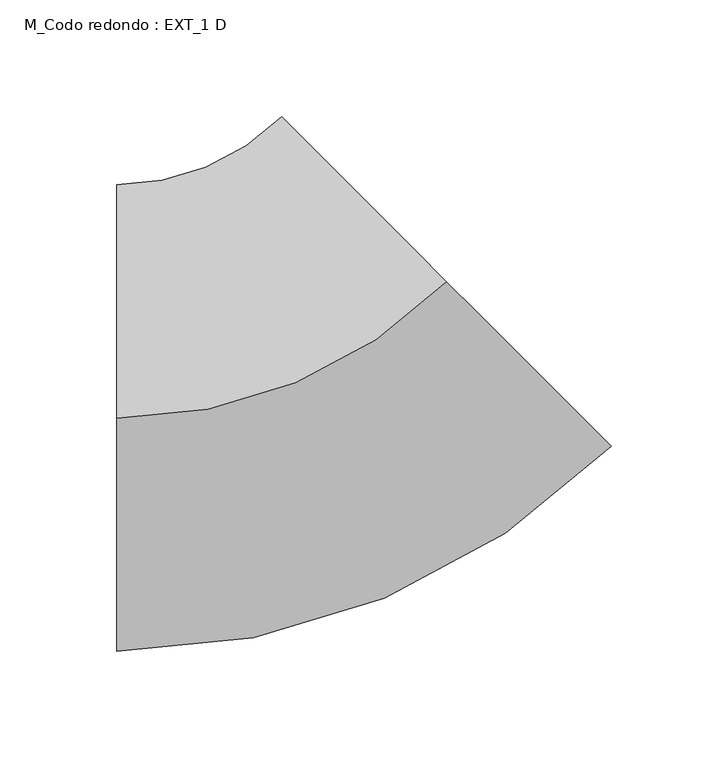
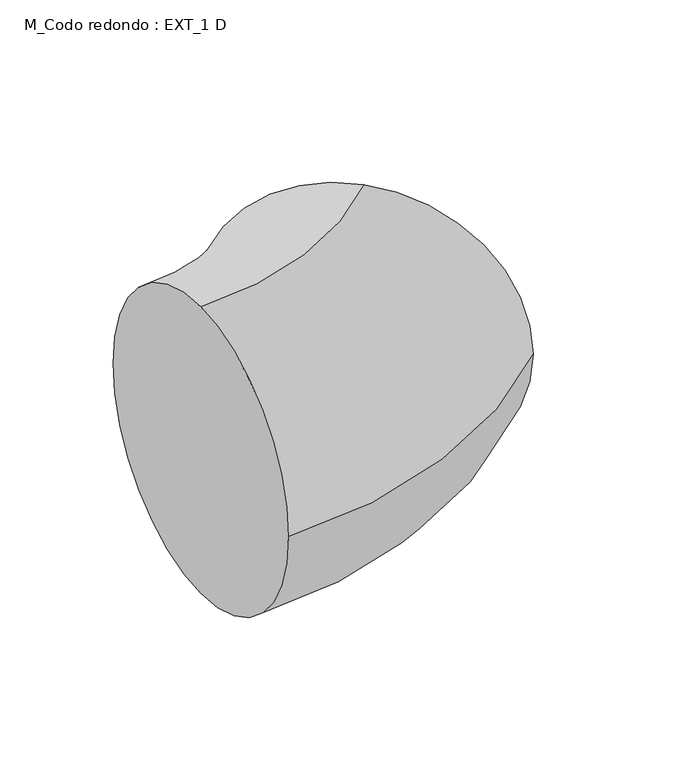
"""IFC4 building model written with IfcOpenShell, lengths in millimetres: duct fitting geometry, M_Codo redondo : EXT_1 D."""

from ifc_helpers import new_model, si_unit, point, frame, origin, place, context, project, spatial, circle_curve, ellipse_curve, trimmed, source, transform, mapped, element, save
from ifc_brep_helpers import plane_surface, revolved_surface, advanced_brep


def m_codo_redondo_ext_1_d_d62552e0(model_context):
    return source(origin(), model_context, "Body", "AdvancedBrep", [
        advanced_brep(
        [(-82.8427125, 0.0, 100.0), (-82.8427125, 100.0, 0.0), (-82.8427125, 0.0, -100.0), (-82.8427125, -100.0, 0.0), (58.5786438, 58.5786438, 100.0), (129.2893219, -12.1320344, 0.0), (58.5786438, 58.5786438, -100.0), (-12.1320344, 129.2893219, 0.0)],
        [
            (0, 1, circle_curve(frame((-82.8427125, 0.0, 0.0), z_axis=(-1.0, 0.0, 0.0), x_axis=(0.0, 1.0, 0.0)), 100.0)),
            (1, 2, circle_curve(frame((-82.8427125, 0.0, 0.0), z_axis=(-1.0, 0.0, 0.0), x_axis=(0.0, 1.0, 0.0)), 100.0)),
            (2, 3, circle_curve(frame((-82.8427125, 0.0, 0.0), z_axis=(-1.0, 0.0, 0.0), x_axis=(0.0, 1.0, 0.0)), 100.0)),
            (3, 0, circle_curve(frame((-82.8427125, 0.0, 0.0), z_axis=(-1.0, 0.0, 0.0), x_axis=(0.0, 1.0, 0.0)), 100.0)),
            (4, 5, circle_curve(frame((58.5786438, 58.5786438, 0.0), z_axis=(0.7071067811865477, 0.7071067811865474, 0.0), x_axis=(-0.7071067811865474, 0.7071067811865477, 0.0)), 100.0)),
            (5, 6, circle_curve(frame((58.5786438, 58.5786438, 0.0), z_axis=(0.7071067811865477, 0.7071067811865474, 0.0), x_axis=(-0.7071067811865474, 0.7071067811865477, 0.0)), 100.0)),
            (6, 7, circle_curve(frame((58.5786438, 58.5786438, 0.0), z_axis=(0.7071067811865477, 0.7071067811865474, 0.0), x_axis=(-0.7071067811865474, 0.7071067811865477, 0.0)), 100.0)),
            (7, 4, circle_curve(frame((58.5786438, 58.5786438, 0.0), z_axis=(0.7071067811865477, 0.7071067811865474, 0.0), x_axis=(-0.7071067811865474, 0.7071067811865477, 0.0)), 100.0)),
            (7, 1, circle_curve(frame((-82.8427125, 200.0, 0.0), z_axis=(0.0, 0.0, -1.0), x_axis=(0.0, -1.0, 0.0)), 100.0)),
            (0, 4, circle_curve(frame((-82.8427125, 200.0, 100.0), z_axis=(0.0, 0.0, 1.0), x_axis=(0.0, -1.0, 0.0)), 200.0)),
            (6, 2, circle_curve(frame((-82.8427125, 200.0, -100.0), z_axis=(0.0, 0.0, -1.0), x_axis=(0.0, -1.0, 0.0)), 200.0)),
            (5, 3, circle_curve(frame((-82.8427125, 200.0, 0.0), z_axis=(0.0, 0.0, -1.0), x_axis=(0.0, -1.0, 0.0)), 300.0)),
        ],
        [
            plane_surface(frame((-82.8427125, 0.0, 0.0), z_axis=(-1.0, 0.0, 0.0), x_axis=(0.0, 0.0, 1.0))),
            plane_surface(frame((58.5786438, 58.5786438, 0.0), z_axis=(0.7071067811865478, 0.7071067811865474, 0.0), x_axis=(0.0, 0.0, 1.0))),
            revolved_surface(trimmed(ellipse_curve(frame((-82.8427125, 0.0, 0.0), z_axis=(-1.0, 0.0, 0.0), x_axis=(0.0, 1.0, 0.0)), 100.0, 100.0), [point((-82.8427125, 0.0, 100.0))], [point((-82.8427125, 100.0, 0.0))], True, "CARTESIAN"), (-82.8427125, 200.0, 0.0), (0.0, 0.0, 1.0)),
            revolved_surface(trimmed(ellipse_curve(frame((-82.8427125, 0.0, 0.0), z_axis=(-1.0, 0.0, 0.0), x_axis=(0.0, 1.0, 0.0)), 100.0, 100.0), [point((-82.8427125, 100.0, 0.0))], [point((-82.8427125, 0.0, -100.0))], True, "CARTESIAN"), (-82.8427125, 200.0, 0.0), (0.0, 0.0, 1.0)),
            revolved_surface(trimmed(ellipse_curve(frame((-82.8427125, 0.0, 0.0), z_axis=(-1.0, 0.0, 0.0), x_axis=(0.0, 1.0, 0.0)), 100.0, 100.0), [point((-82.8427125, 0.0, -100.0))], [point((-82.8427125, -100.0, 0.0))], True, "CARTESIAN"), (-82.8427125, 200.0, 0.0), (0.0, 0.0, 1.0)),
            revolved_surface(trimmed(ellipse_curve(frame((-82.8427125, 0.0, 0.0), z_axis=(-1.0, 0.0, 0.0), x_axis=(0.0, 1.0, 0.0)), 100.0, 100.0), [point((-82.8427125, -100.0, 0.0))], [point((-82.8427125, 0.0, 100.0))], True, "CARTESIAN"), (-82.8427125, 200.0, 0.0), (0.0, 0.0, 1.0)),
        ],
        [
            (0, [[1, 2, 3, 4]]),
            (1, [[5, 6, 7, 8]]),
            (2, [[9, -1, 10, -8]]),
            (3, [[11, -2, -9, -7]]),
            (4, [[12, -3, -11, -6]]),
            (5, [[-10, -4, -12, -5]]),
        ],
    ),
    ])


if __name__ == "__main__":
    model = new_model("IFC4")
    model_context = context("Model", 3, world=origin())
    ifc_project = project(units=[si_unit("LENGTHUNIT", "METRE", prefix="MILLI")], contexts=[model_context])
    site = spatial("IfcSite", under=ifc_project)
    building = spatial("IfcBuilding", under=site)
    placement = place(None, origin())
    m_codo_redondo_ext_1_d_shape = m_codo_redondo_ext_1_d_d62552e0(model_context)
    element("IfcDuctFitting", 1, ObjectType="M_Codo redondo : EXT_1 D", at=placement, inside=building, context=model_context, shape_type="MappedRepresentation", body=[
        mapped(m_codo_redondo_ext_1_d_shape, transform((0.0, 0.0, 0.0), x_axis=(1.0, 0.0, 0.0), y_axis=(0.0, 1.0, 0.0), z_axis=(0.0, 0.0, 1.0))),
    ])
    save(model, "model.ifc")
